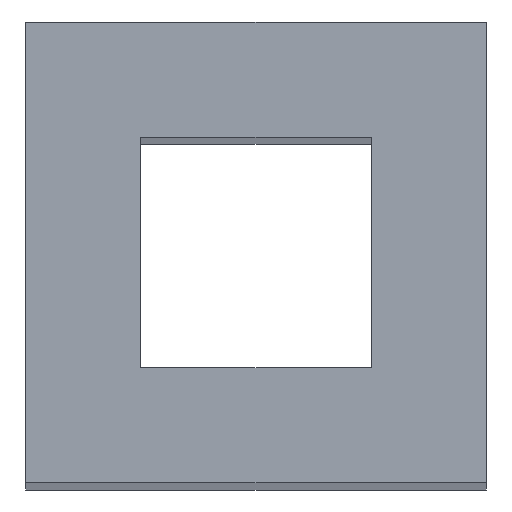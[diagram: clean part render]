
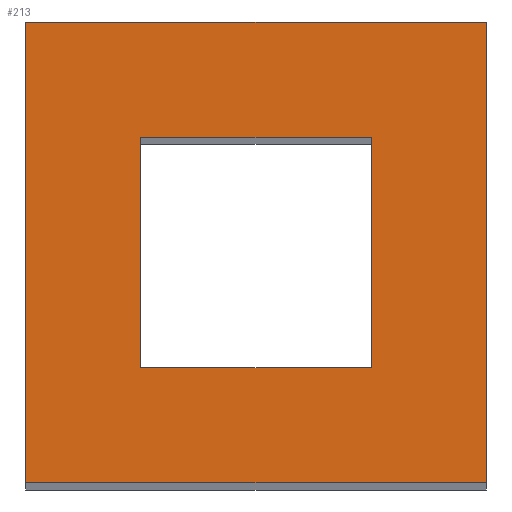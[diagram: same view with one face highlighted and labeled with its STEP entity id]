
A CAD part, top view. The second image highlights one B-rep face of the part: STEP entity #213.
In plain terms, the highlighted planar face has unit normal (0, 0, 1).
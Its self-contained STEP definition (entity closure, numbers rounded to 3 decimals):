
#24 = VERTEX_POINT('',#25);
#25 = CARTESIAN_POINT('',(-126.,36.,-12.));
#32 = PLANE('',#33);
#33 = AXIS2_PLACEMENT_3D('',#34,#35,#36);
#34 = CARTESIAN_POINT('',(-126.,36.,-117.));
#35 = DIRECTION('',(1.,0.,-0.));
#36 = DIRECTION('',(0.,0.,1.));
#44 = PLANE('',#45);
#45 = AXIS2_PLACEMENT_3D('',#46,#47,#48);
#46 = CARTESIAN_POINT('',(-126.,36.,-117.));
#47 = DIRECTION('',(-0.,1.,0.));
#48 = DIRECTION('',(0.,0.,1.));
#85 = VERTEX_POINT('',#86);
#86 = CARTESIAN_POINT('',(-126.,48.,-12.));
#100 = PLANE('',#101);
#101 = AXIS2_PLACEMENT_3D('',#102,#103,#104);
#102 = CARTESIAN_POINT('',(-126.,48.,-117.));
#103 = DIRECTION('',(-0.,1.,0.));
#104 = DIRECTION('',(0.,0.,1.));
#112 = EDGE_CURVE('',#24,#85,#113,.T.);
#113 = SURFACE_CURVE('',#114,(#118,#125),.PCURVE_S1.);
#114 = LINE('',#115,#116);
#115 = CARTESIAN_POINT('',(-126.,36.,-12.));
#116 = VECTOR('',#117,1.);
#117 = DIRECTION('',(-0.,1.,0.));
#118 = PCURVE('',#32,#119);
#119 = DEFINITIONAL_REPRESENTATION('',(#120),#124);
#120 = LINE('',#121,#122);
#121 = CARTESIAN_POINT('',(105.,0.));
#122 = VECTOR('',#123,1.);
#123 = DIRECTION('',(0.,-1.));
#124 = ( GEOMETRIC_REPRESENTATION_CONTEXT(2) 
PARAMETRIC_REPRESENTATION_CONTEXT() REPRESENTATION_CONTEXT('2D SPACE',''
  ) );
#125 = PCURVE('',#126,#131);
#126 = PLANE('',#127);
#127 = AXIS2_PLACEMENT_3D('',#128,#129,#130);
#128 = CARTESIAN_POINT('',(-126.,36.,-12.));
#129 = DIRECTION('',(0.,0.,1.));
#130 = DIRECTION('',(1.,0.,-0.));
#131 = DEFINITIONAL_REPRESENTATION('',(#132),#136);
#132 = LINE('',#133,#134);
#133 = CARTESIAN_POINT('',(0.,0.));
#134 = VECTOR('',#135,1.);
#135 = DIRECTION('',(0.,1.));
#136 = ( GEOMETRIC_REPRESENTATION_CONTEXT(2) 
PARAMETRIC_REPRESENTATION_CONTEXT() REPRESENTATION_CONTEXT('2D SPACE',''
  ) );
#165 = EDGE_CURVE('',#24,#166,#168,.T.);
#166 = VERTEX_POINT('',#167);
#167 = CARTESIAN_POINT('',(-114.,36.,-12.));
#168 = SURFACE_CURVE('',#169,(#173,#180),.PCURVE_S1.);
#169 = LINE('',#170,#171);
#170 = CARTESIAN_POINT('',(-126.,36.,-12.));
#171 = VECTOR('',#172,1.);
#172 = DIRECTION('',(1.,0.,-0.));
#173 = PCURVE('',#44,#174);
#174 = DEFINITIONAL_REPRESENTATION('',(#175),#179);
#175 = LINE('',#176,#177);
#176 = CARTESIAN_POINT('',(105.,0.));
#177 = VECTOR('',#178,1.);
#178 = DIRECTION('',(0.,1.));
#179 = ( GEOMETRIC_REPRESENTATION_CONTEXT(2) 
PARAMETRIC_REPRESENTATION_CONTEXT() REPRESENTATION_CONTEXT('2D SPACE',''
  ) );
#180 = PCURVE('',#126,#181);
#181 = DEFINITIONAL_REPRESENTATION('',(#182),#186);
#182 = LINE('',#183,#184);
#183 = CARTESIAN_POINT('',(0.,0.));
#184 = VECTOR('',#185,1.);
#185 = DIRECTION('',(1.,0.));
#186 = ( GEOMETRIC_REPRESENTATION_CONTEXT(2) 
PARAMETRIC_REPRESENTATION_CONTEXT() REPRESENTATION_CONTEXT('2D SPACE',''
  ) );
#202 = PLANE('',#203);
#203 = AXIS2_PLACEMENT_3D('',#204,#205,#206);
#204 = CARTESIAN_POINT('',(-114.,36.,-117.));
#205 = DIRECTION('',(1.,0.,-0.));
#206 = DIRECTION('',(0.,0.,1.));
#213 = ADVANCED_FACE('',(#214,#262),#126,.T.);
#214 = FACE_BOUND('',#215,.T.);
#215 = EDGE_LOOP('',(#216,#217,#218,#241));
#216 = ORIENTED_EDGE('',*,*,#112,.F.);
#217 = ORIENTED_EDGE('',*,*,#165,.T.);
#218 = ORIENTED_EDGE('',*,*,#219,.T.);
#219 = EDGE_CURVE('',#166,#220,#222,.T.);
#220 = VERTEX_POINT('',#221);
#221 = CARTESIAN_POINT('',(-114.,48.,-12.));
#222 = SURFACE_CURVE('',#223,(#227,#234),.PCURVE_S1.);
#223 = LINE('',#224,#225);
#224 = CARTESIAN_POINT('',(-114.,36.,-12.));
#225 = VECTOR('',#226,1.);
#226 = DIRECTION('',(-0.,1.,0.));
#227 = PCURVE('',#126,#228);
#228 = DEFINITIONAL_REPRESENTATION('',(#229),#233);
#229 = LINE('',#230,#231);
#230 = CARTESIAN_POINT('',(12.,0.));
#231 = VECTOR('',#232,1.);
#232 = DIRECTION('',(0.,1.));
#233 = ( GEOMETRIC_REPRESENTATION_CONTEXT(2) 
PARAMETRIC_REPRESENTATION_CONTEXT() REPRESENTATION_CONTEXT('2D SPACE',''
  ) );
#234 = PCURVE('',#202,#235);
#235 = DEFINITIONAL_REPRESENTATION('',(#236),#240);
#236 = LINE('',#237,#238);
#237 = CARTESIAN_POINT('',(105.,0.));
#238 = VECTOR('',#239,1.);
#239 = DIRECTION('',(0.,-1.));
#240 = ( GEOMETRIC_REPRESENTATION_CONTEXT(2) 
PARAMETRIC_REPRESENTATION_CONTEXT() REPRESENTATION_CONTEXT('2D SPACE',''
  ) );
#241 = ORIENTED_EDGE('',*,*,#242,.F.);
#242 = EDGE_CURVE('',#85,#220,#243,.T.);
#243 = SURFACE_CURVE('',#244,(#248,#255),.PCURVE_S1.);
#244 = LINE('',#245,#246);
#245 = CARTESIAN_POINT('',(-126.,48.,-12.));
#246 = VECTOR('',#247,1.);
#247 = DIRECTION('',(1.,0.,-0.));
#248 = PCURVE('',#126,#249);
#249 = DEFINITIONAL_REPRESENTATION('',(#250),#254);
#250 = LINE('',#251,#252);
#251 = CARTESIAN_POINT('',(0.,12.));
#252 = VECTOR('',#253,1.);
#253 = DIRECTION('',(1.,0.));
#254 = ( GEOMETRIC_REPRESENTATION_CONTEXT(2) 
PARAMETRIC_REPRESENTATION_CONTEXT() REPRESENTATION_CONTEXT('2D SPACE',''
  ) );
#255 = PCURVE('',#100,#256);
#256 = DEFINITIONAL_REPRESENTATION('',(#257),#261);
#257 = LINE('',#258,#259);
#258 = CARTESIAN_POINT('',(105.,0.));
#259 = VECTOR('',#260,1.);
#260 = DIRECTION('',(0.,1.));
#261 = ( GEOMETRIC_REPRESENTATION_CONTEXT(2) 
PARAMETRIC_REPRESENTATION_CONTEXT() REPRESENTATION_CONTEXT('2D SPACE',''
  ) );
#262 = FACE_BOUND('',#263,.T.);
#263 = EDGE_LOOP('',(#264,#292,#318,#344));
#264 = ORIENTED_EDGE('',*,*,#265,.T.);
#265 = EDGE_CURVE('',#266,#268,#270,.T.);
#266 = VERTEX_POINT('',#267);
#267 = CARTESIAN_POINT('',(-117.,39.,-12.));
#268 = VERTEX_POINT('',#269);
#269 = CARTESIAN_POINT('',(-123.,39.,-12.));
#270 = SURFACE_CURVE('',#271,(#275,#281),.PCURVE_S1.);
#271 = LINE('',#272,#273);
#272 = CARTESIAN_POINT('',(-124.5,39.,-12.));
#273 = VECTOR('',#274,1.);
#274 = DIRECTION('',(-1.,-0.,0.));
#275 = PCURVE('',#126,#276);
#276 = DEFINITIONAL_REPRESENTATION('',(#277),#280);
#277 = B_SPLINE_CURVE_WITH_KNOTS('',1,(#278,#279),.UNSPECIFIED.,.F.,.F.,
  (2,2),(-7.5,-1.5),.PIECEWISE_BEZIER_KNOTS.);
#278 = CARTESIAN_POINT('',(9.,3.));
#279 = CARTESIAN_POINT('',(3.,3.));
#280 = ( GEOMETRIC_REPRESENTATION_CONTEXT(2) 
PARAMETRIC_REPRESENTATION_CONTEXT() REPRESENTATION_CONTEXT('2D SPACE',''
  ) );
#281 = PCURVE('',#282,#287);
#282 = PLANE('',#283);
#283 = AXIS2_PLACEMENT_3D('',#284,#285,#286);
#284 = CARTESIAN_POINT('',(-123.,39.,-118.));
#285 = DIRECTION('',(-0.,1.,0.));
#286 = DIRECTION('',(0.,0.,1.));
#287 = DEFINITIONAL_REPRESENTATION('',(#288),#291);
#288 = B_SPLINE_CURVE_WITH_KNOTS('',1,(#289,#290),.UNSPECIFIED.,.F.,.F.,
  (2,2),(-7.5,-1.5),.PIECEWISE_BEZIER_KNOTS.);
#289 = CARTESIAN_POINT('',(106.,6.));
#290 = CARTESIAN_POINT('',(106.,0.));
#291 = ( GEOMETRIC_REPRESENTATION_CONTEXT(2) 
PARAMETRIC_REPRESENTATION_CONTEXT() REPRESENTATION_CONTEXT('2D SPACE',''
  ) );
#292 = ORIENTED_EDGE('',*,*,#293,.T.);
#293 = EDGE_CURVE('',#268,#294,#296,.T.);
#294 = VERTEX_POINT('',#295);
#295 = CARTESIAN_POINT('',(-123.,45.,-12.));
#296 = SURFACE_CURVE('',#297,(#301,#307),.PCURVE_S1.);
#297 = LINE('',#298,#299);
#298 = CARTESIAN_POINT('',(-123.,37.5,-12.));
#299 = VECTOR('',#300,1.);
#300 = DIRECTION('',(-0.,1.,0.));
#301 = PCURVE('',#126,#302);
#302 = DEFINITIONAL_REPRESENTATION('',(#303),#306);
#303 = B_SPLINE_CURVE_WITH_KNOTS('',1,(#304,#305),.UNSPECIFIED.,.F.,.F.,
  (2,2),(1.5,7.5),.PIECEWISE_BEZIER_KNOTS.);
#304 = CARTESIAN_POINT('',(3.,3.));
#305 = CARTESIAN_POINT('',(3.,9.));
#306 = ( GEOMETRIC_REPRESENTATION_CONTEXT(2) 
PARAMETRIC_REPRESENTATION_CONTEXT() REPRESENTATION_CONTEXT('2D SPACE',''
  ) );
#307 = PCURVE('',#308,#313);
#308 = PLANE('',#309);
#309 = AXIS2_PLACEMENT_3D('',#310,#311,#312);
#310 = CARTESIAN_POINT('',(-123.,39.,-118.));
#311 = DIRECTION('',(1.,0.,-0.));
#312 = DIRECTION('',(0.,0.,1.));
#313 = DEFINITIONAL_REPRESENTATION('',(#314),#317);
#314 = B_SPLINE_CURVE_WITH_KNOTS('',1,(#315,#316),.UNSPECIFIED.,.F.,.F.,
  (2,2),(1.5,7.5),.PIECEWISE_BEZIER_KNOTS.);
#315 = CARTESIAN_POINT('',(106.,0.));
#316 = CARTESIAN_POINT('',(106.,-6.));
#317 = ( GEOMETRIC_REPRESENTATION_CONTEXT(2) 
PARAMETRIC_REPRESENTATION_CONTEXT() REPRESENTATION_CONTEXT('2D SPACE',''
  ) );
#318 = ORIENTED_EDGE('',*,*,#319,.F.);
#319 = EDGE_CURVE('',#320,#294,#322,.T.);
#320 = VERTEX_POINT('',#321);
#321 = CARTESIAN_POINT('',(-117.,45.,-12.));
#322 = SURFACE_CURVE('',#323,(#327,#333),.PCURVE_S1.);
#323 = LINE('',#324,#325);
#324 = CARTESIAN_POINT('',(-124.5,45.,-12.));
#325 = VECTOR('',#326,1.);
#326 = DIRECTION('',(-1.,-0.,0.));
#327 = PCURVE('',#126,#328);
#328 = DEFINITIONAL_REPRESENTATION('',(#329),#332);
#329 = B_SPLINE_CURVE_WITH_KNOTS('',1,(#330,#331),.UNSPECIFIED.,.F.,.F.,
  (2,2),(-7.5,-1.5),.PIECEWISE_BEZIER_KNOTS.);
#330 = CARTESIAN_POINT('',(9.,9.));
#331 = CARTESIAN_POINT('',(3.,9.));
#332 = ( GEOMETRIC_REPRESENTATION_CONTEXT(2) 
PARAMETRIC_REPRESENTATION_CONTEXT() REPRESENTATION_CONTEXT('2D SPACE',''
  ) );
#333 = PCURVE('',#334,#339);
#334 = PLANE('',#335);
#335 = AXIS2_PLACEMENT_3D('',#336,#337,#338);
#336 = CARTESIAN_POINT('',(-123.,45.,-118.));
#337 = DIRECTION('',(-0.,1.,0.));
#338 = DIRECTION('',(0.,0.,1.));
#339 = DEFINITIONAL_REPRESENTATION('',(#340),#343);
#340 = B_SPLINE_CURVE_WITH_KNOTS('',1,(#341,#342),.UNSPECIFIED.,.F.,.F.,
  (2,2),(-7.5,-1.5),.PIECEWISE_BEZIER_KNOTS.);
#341 = CARTESIAN_POINT('',(106.,6.));
#342 = CARTESIAN_POINT('',(106.,0.));
#343 = ( GEOMETRIC_REPRESENTATION_CONTEXT(2) 
PARAMETRIC_REPRESENTATION_CONTEXT() REPRESENTATION_CONTEXT('2D SPACE',''
  ) );
#344 = ORIENTED_EDGE('',*,*,#345,.F.);
#345 = EDGE_CURVE('',#266,#320,#346,.T.);
#346 = SURFACE_CURVE('',#347,(#351,#357),.PCURVE_S1.);
#347 = LINE('',#348,#349);
#348 = CARTESIAN_POINT('',(-117.,37.5,-12.));
#349 = VECTOR('',#350,1.);
#350 = DIRECTION('',(-0.,1.,0.));
#351 = PCURVE('',#126,#352);
#352 = DEFINITIONAL_REPRESENTATION('',(#353),#356);
#353 = B_SPLINE_CURVE_WITH_KNOTS('',1,(#354,#355),.UNSPECIFIED.,.F.,.F.,
  (2,2),(1.5,7.5),.PIECEWISE_BEZIER_KNOTS.);
#354 = CARTESIAN_POINT('',(9.,3.));
#355 = CARTESIAN_POINT('',(9.,9.));
#356 = ( GEOMETRIC_REPRESENTATION_CONTEXT(2) 
PARAMETRIC_REPRESENTATION_CONTEXT() REPRESENTATION_CONTEXT('2D SPACE',''
  ) );
#357 = PCURVE('',#358,#363);
#358 = PLANE('',#359);
#359 = AXIS2_PLACEMENT_3D('',#360,#361,#362);
#360 = CARTESIAN_POINT('',(-117.,39.,-118.));
#361 = DIRECTION('',(1.,0.,-0.));
#362 = DIRECTION('',(0.,0.,1.));
#363 = DEFINITIONAL_REPRESENTATION('',(#364),#367);
#364 = B_SPLINE_CURVE_WITH_KNOTS('',1,(#365,#366),.UNSPECIFIED.,.F.,.F.,
  (2,2),(1.5,7.5),.PIECEWISE_BEZIER_KNOTS.);
#365 = CARTESIAN_POINT('',(106.,0.));
#366 = CARTESIAN_POINT('',(106.,-6.));
#367 = ( GEOMETRIC_REPRESENTATION_CONTEXT(2) 
PARAMETRIC_REPRESENTATION_CONTEXT() REPRESENTATION_CONTEXT('2D SPACE',''
  ) );
